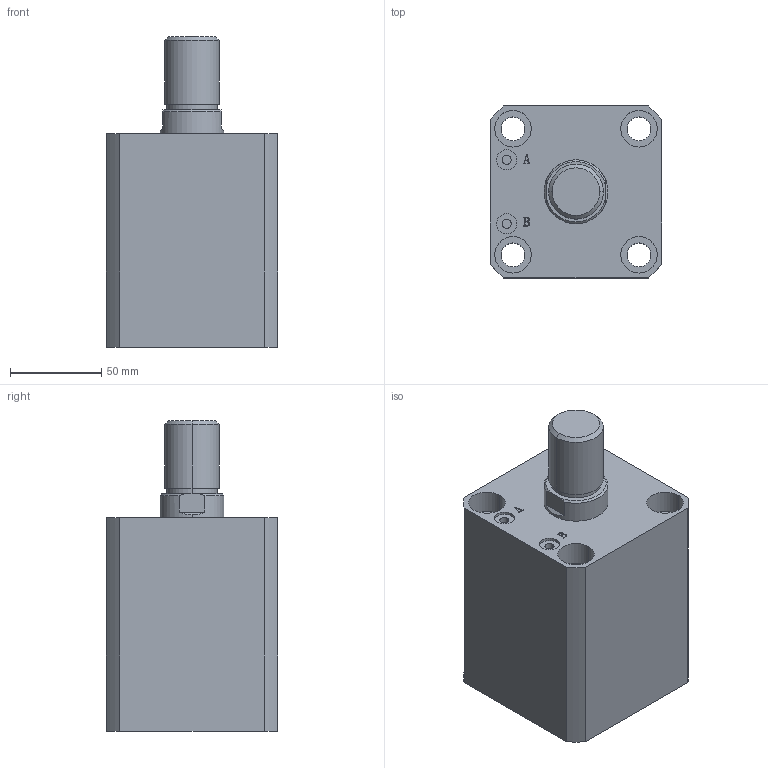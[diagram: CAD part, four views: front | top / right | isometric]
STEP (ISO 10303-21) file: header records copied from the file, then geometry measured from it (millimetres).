
FILE_DESCRIPTION (( 'STEP AP203' ), '1' );
FILE_NAME ('HTB-SDMA63-50W.STEP', '2019-10-08T01:08:29', ( '微软用户' ), ( '微软中国' ), 'SwSTEP 2.0', 'SolidWorks 2012', '' );
FILE_SCHEMA (( 'CONFIG_CONTROL_DESIGN' ));
Length unit declared in the file: millimetre
Products named in the file (3): HTB-SDMA63-50W; HTB-SDMA63-50W活塞杆; HTB-SDMA63-50掛极
Assembly tree (2 placements, depth 2):
  HTB-SDMA63-50W
    HTB-SDMA63-50掛极
    HTB-SDMA63-50W活塞杆
Bounding box: 94 x 94 x 170 mm (x, y, z)
Volume: 872048 mm3; surface area: 125848.3 mm2
Topology: 2 solids, 2 shells, 141 faces, 337 edges, 222 vertices
Faces by surface type: plane 67, cylinder 48, bspline 16, torus 6, cone 4
Entity records: 5176 total; most frequent: CARTESIAN_POINT 1593, ORIENTED_EDGE 674, DIRECTION 669, EDGE_CURVE 337, AXIS2_PLACEMENT_3D 242, VERTEX_POINT 222, LINE 185, VECTOR 185
